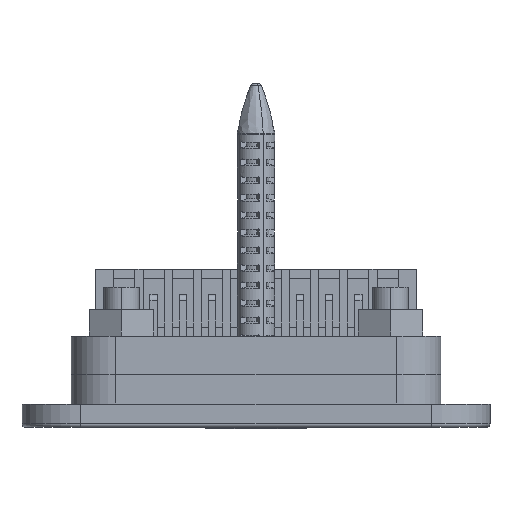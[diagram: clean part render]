
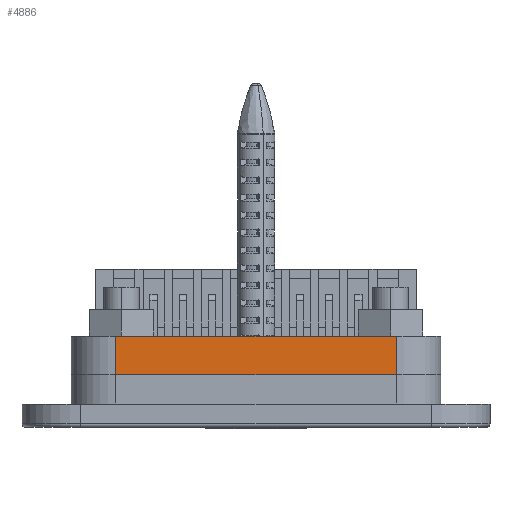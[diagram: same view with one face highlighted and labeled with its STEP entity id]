
A CAD part, left-side view. The second image highlights one B-rep face of the part: STEP entity #4886.
In plain terms, the highlighted planar face has unit normal (-1, 0, 0).
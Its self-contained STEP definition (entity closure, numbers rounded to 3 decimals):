
#567 = CARTESIAN_POINT ( 'NONE',  ( -30.286, 12.843, -0.75 ) ) ;
#587 = CARTESIAN_POINT ( 'NONE',  ( -30.286, 12.843, 2.55 ) ) ;
#1511 = EDGE_CURVE ( 'NONE', #13905, #3400, #33640, .T. ) ;
#3400 = VERTEX_POINT ( 'NONE', #20493 ) ;
#3917 = DIRECTION ( 'NONE',  ( 0., 0., -1. ) ) ;
#4886 = ADVANCED_FACE ( 'NONE', ( #7865 ), #25053, .T. ) ;
#6696 = CARTESIAN_POINT ( 'NONE',  ( -30.286, 12.843, 2.55 ) ) ;
#7368 = VECTOR ( 'NONE', #3917, 1000. ) ;
#7865 = FACE_OUTER_BOUND ( 'NONE', #18381, .T. ) ;
#8203 = VERTEX_POINT ( 'NONE', #587 ) ;
#9065 = LINE ( 'NONE', #13172, #22235 ) ;
#9589 = VECTOR ( 'NONE', #33325, 1000. ) ;
#10406 = LINE ( 'NONE', #33420, #9589 ) ;
#11323 = ORIENTED_EDGE ( 'NONE', *, *, #30840, .T. ) ;
#11673 = ORIENTED_EDGE ( 'NONE', *, *, #18015, .T. ) ;
#11982 = DIRECTION ( 'NONE',  ( 0., -1., 0. ) ) ;
#12174 = ORIENTED_EDGE ( 'NONE', *, *, #1511, .F. ) ;
#13172 = CARTESIAN_POINT ( 'NONE',  ( -30.286, 12.843, 2.55 ) ) ;
#13905 = VERTEX_POINT ( 'NONE', #28767 ) ;
#16753 = DIRECTION ( 'NONE',  ( 0., 1., 0. ) ) ;
#18015 = EDGE_CURVE ( 'NONE', #13905, #8203, #19601, .T. ) ;
#18381 = EDGE_LOOP ( 'NONE', ( #28734, #12174, #11673, #11323 ) ) ;
#19601 = LINE ( 'NONE', #32415, #26590 ) ;
#19606 = CARTESIAN_POINT ( 'NONE',  ( -30.286, -11.157, 2.55 ) ) ;
#20212 = EDGE_CURVE ( 'NONE', #3400, #23517, #10406, .T. ) ;
#20493 = CARTESIAN_POINT ( 'NONE',  ( -30.286, -11.157, -0.75 ) ) ;
#22235 = VECTOR ( 'NONE', #26243, 1000. ) ;
#23517 = VERTEX_POINT ( 'NONE', #567 ) ;
#25053 = PLANE ( 'NONE',  #26731 ) ;
#26243 = DIRECTION ( 'NONE',  ( 0., 0., -1. ) ) ;
#26590 = VECTOR ( 'NONE', #16753, 1000. ) ;
#26731 = AXIS2_PLACEMENT_3D ( 'NONE', #6696, #27666, #11982 ) ;
#27666 = DIRECTION ( 'NONE',  ( -1., 0., 0. ) ) ;
#28734 = ORIENTED_EDGE ( 'NONE', *, *, #20212, .F. ) ;
#28767 = CARTESIAN_POINT ( 'NONE',  ( -30.286, -11.157, 2.55 ) ) ;
#30840 = EDGE_CURVE ( 'NONE', #8203, #23517, #9065, .T. ) ;
#32415 = CARTESIAN_POINT ( 'NONE',  ( -30.286, 12.843, 2.55 ) ) ;
#33325 = DIRECTION ( 'NONE',  ( 0., 1., 0. ) ) ;
#33420 = CARTESIAN_POINT ( 'NONE',  ( -30.286, 12.843, -0.75 ) ) ;
#33640 = LINE ( 'NONE', #19606, #7368 ) ;
